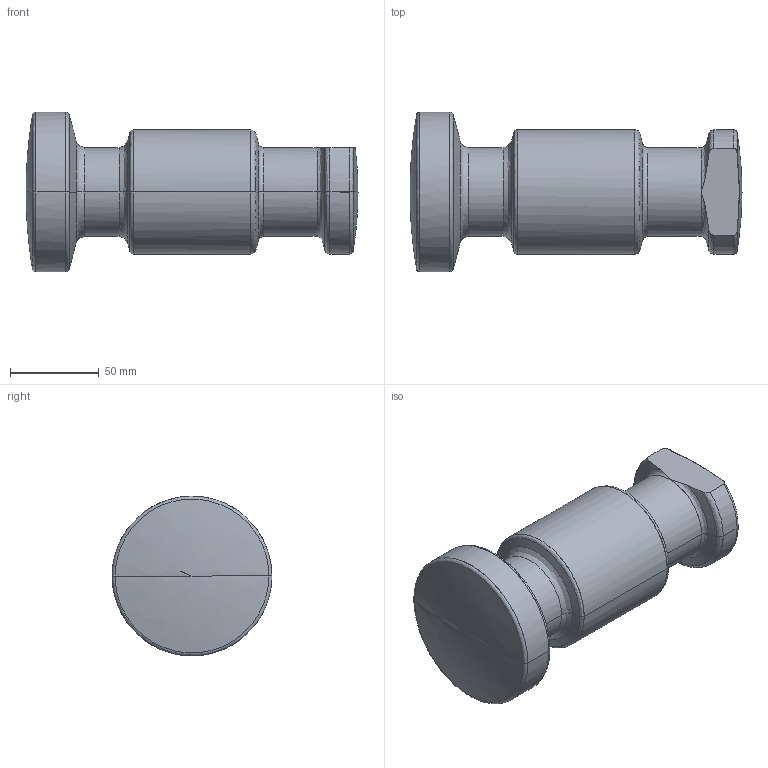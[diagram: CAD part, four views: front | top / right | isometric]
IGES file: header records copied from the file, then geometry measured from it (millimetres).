
Global section: file name: E:\UnigraphicsGraphicData\MISUMI_PRESS-PARTS\IGES\3d_chf50_03517_r00.igs; native system: NX V5.0; preprocessor: UGS NX IGES V5.0; author: MISUMI; date: 20110105.160216; units: millimetre
Bounding box: 187 x 90 x 89.97 mm (x, y, z)
Surface area: 52789.1 mm2 (no closed solid volume)
Topology: 0 solids, 0 shells, 48 faces, 217 edges, 213 vertices
Faces by surface type: bspline 48
